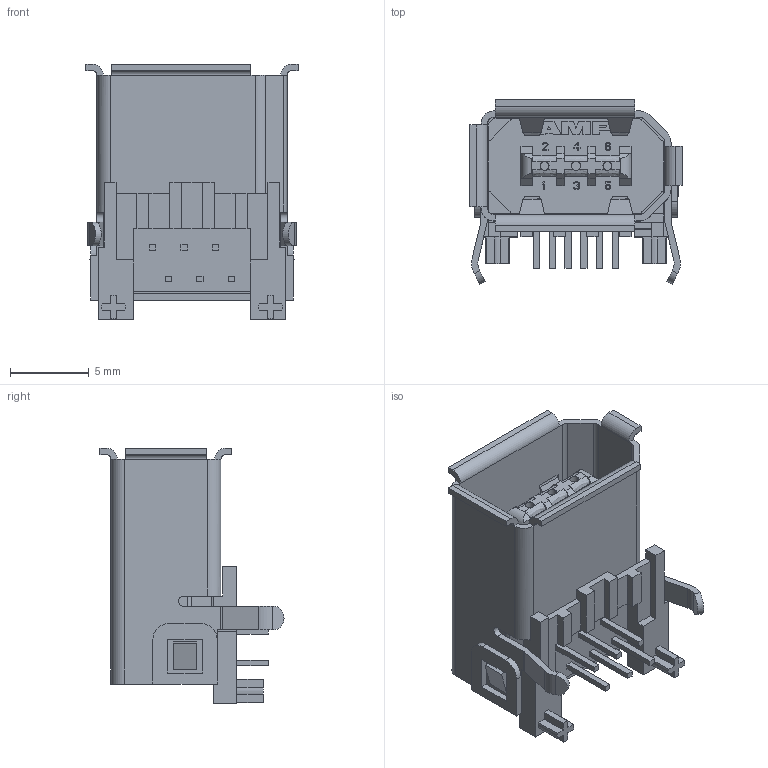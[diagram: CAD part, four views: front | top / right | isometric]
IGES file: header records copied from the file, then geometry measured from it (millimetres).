
Start section:  PTC IGES file: c-5788516-1-a-3d.igs
Global section: file name: c-5788516-1-a-3d.igs; native system: Pro/ENGINEER by Parametric Technology Corporation; preprocessor: 2005450; author: workeradm; organization: Unknown; date: 080428.093505; units: millimetre
Bounding box: 13.5 x 11.71 x 16.25 mm (x, y, z)
Surface area: 1797.4 mm2 (no closed solid volume)
Topology: 0 solids, 0 shells, 627 faces, 3558 edges, 3558 vertices
Faces by surface type: bspline 535, revolution 90, extrusion 2
